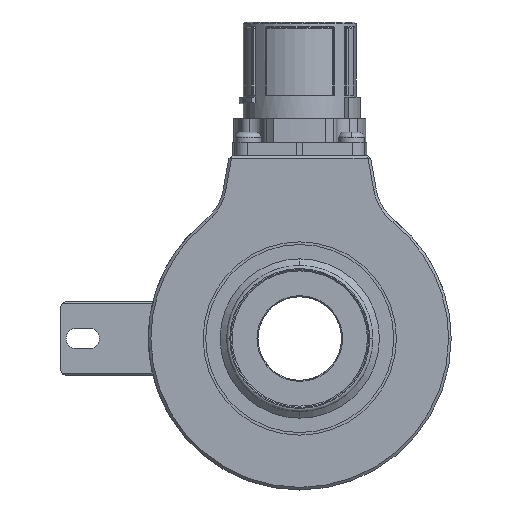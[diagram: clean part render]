
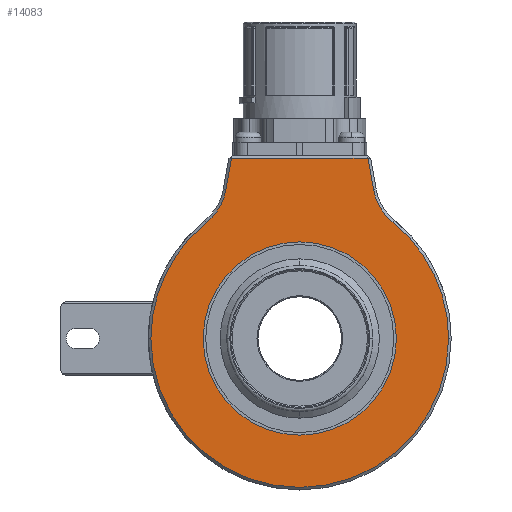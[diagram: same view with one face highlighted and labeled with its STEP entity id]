
A CAD part, left-side view. The second image highlights one B-rep face of the part: STEP entity #14083.
In plain terms, the highlighted planar face has unit normal (-1, 0, 0).
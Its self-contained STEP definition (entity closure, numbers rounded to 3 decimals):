
#153 = VERTEX_POINT ( 'NONE', #1742 ) ;
#588 = DIRECTION ( 'NONE',  ( 0., 1., 0. ) ) ;
#748 = LINE ( 'NONE', #25840, #31480 ) ;
#1354 = VERTEX_POINT ( 'NONE', #5620 ) ;
#1373 = VERTEX_POINT ( 'NONE', #10769 ) ;
#1550 = AXIS2_PLACEMENT_3D ( 'NONE', #31123, #26333, #23601 ) ;
#1577 = VERTEX_POINT ( 'NONE', #26677 ) ;
#1742 = CARTESIAN_POINT ( 'NONE',  ( -27., 28.5, 0. ) ) ;
#2339 = ORIENTED_EDGE ( 'NONE', *, *, #14885, .T. ) ;
#2572 = VERTEX_POINT ( 'NONE', #18667 ) ;
#2622 = AXIS2_PLACEMENT_3D ( 'NONE', #3199, #22711, #25450 ) ;
#2679 = VECTOR ( 'NONE', #3075, 1000. ) ;
#3075 = DIRECTION ( 'NONE',  ( 0., 0.174, 0.985 ) ) ;
#3199 = CARTESIAN_POINT ( 'NONE',  ( -27., 0., 0. ) ) ;
#3200 = ORIENTED_EDGE ( 'NONE', *, *, #15861, .T. ) ;
#3633 = CIRCLE ( 'NONE', #21664, 18.5 ) ;
#4284 = AXIS2_PLACEMENT_3D ( 'NONE', #31229, #4868, #16954 ) ;
#4868 = DIRECTION ( 'NONE',  ( -1., 0., 0. ) ) ;
#4930 = CARTESIAN_POINT ( 'NONE',  ( -27., 13.08, 34.5 ) ) ;
#5620 = CARTESIAN_POINT ( 'NONE',  ( -27., -18.5, 0. ) ) ;
#5975 = DIRECTION ( 'NONE',  ( 0., -1., 0. ) ) ;
#8067 = LINE ( 'NONE', #17904, #14490 ) ;
#8237 = ORIENTED_EDGE ( 'NONE', *, *, #11364, .T. ) ;
#9329 = ORIENTED_EDGE ( 'NONE', *, *, #31032, .T. ) ;
#9877 = AXIS2_PLACEMENT_3D ( 'NONE', #31249, #29319, #17146 ) ;
#10154 = DIRECTION ( 'NONE',  ( 0., 0.174, -0.985 ) ) ;
#10769 = CARTESIAN_POINT ( 'NONE',  ( -27., 18.5, 0. ) ) ;
#10950 = FACE_OUTER_BOUND ( 'NONE', #21711, .T. ) ;
#11295 = VERTEX_POINT ( 'NONE', #18276 ) ;
#11364 = EDGE_CURVE ( 'NONE', #19329, #153, #11487, .T. ) ;
#11487 = CIRCLE ( 'NONE', #4284, 28.5 ) ;
#11760 = DIRECTION ( 'NONE',  ( 0., -1., 0. ) ) ;
#11990 = CARTESIAN_POINT ( 'NONE',  ( -27., 17.883, 22.191 ) ) ;
#12443 = AXIS2_PLACEMENT_3D ( 'NONE', #16569, #17054, #24289 ) ;
#13037 = CARTESIAN_POINT ( 'NONE',  ( -27., -14.131, 28.544 ) ) ;
#13240 = LINE ( 'NONE', #25631, #2679 ) ;
#13700 = CARTESIAN_POINT ( 'NONE',  ( -27., 24.471, 30.367 ) ) ;
#14083 = ADVANCED_FACE ( 'NONE', ( #10950, #23197 ), #23359, .T. ) ;
#14320 = EDGE_CURVE ( 'NONE', #2572, #17087, #748, .T. ) ;
#14490 = VECTOR ( 'NONE', #10154, 1000. ) ;
#14539 = CIRCLE ( 'NONE', #12443, 28.5 ) ;
#14885 = EDGE_CURVE ( 'NONE', #17087, #1577, #8067, .T. ) ;
#15861 = EDGE_CURVE ( 'NONE', #153, #11295, #14539, .T. ) ;
#16034 = EDGE_CURVE ( 'NONE', #1373, #1354, #19690, .T. ) ;
#16222 = EDGE_CURVE ( 'NONE', #28521, #2572, #13240, .T. ) ;
#16569 = CARTESIAN_POINT ( 'NONE',  ( -27., 0., 0. ) ) ;
#16893 = CARTESIAN_POINT ( 'NONE',  ( -27., -17.883, 22.191 ) ) ;
#16954 = DIRECTION ( 'NONE',  ( 0., -1., 0. ) ) ;
#17054 = DIRECTION ( 'NONE',  ( -1., 0., 0. ) ) ;
#17087 = VERTEX_POINT ( 'NONE', #4930 ) ;
#17146 = DIRECTION ( 'NONE',  ( 0., 1., 0. ) ) ;
#17904 = CARTESIAN_POINT ( 'NONE',  ( -27., 19.46, -1.682 ) ) ;
#17913 = ORIENTED_EDGE ( 'NONE', *, *, #16222, .T. ) ;
#18276 = CARTESIAN_POINT ( 'NONE',  ( -27., -28.5, 0. ) ) ;
#18529 = CARTESIAN_POINT ( 'NONE',  ( -27., 29., 0. ) ) ;
#18662 = EDGE_CURVE ( 'NONE', #1354, #1373, #3633, .T. ) ;
#18667 = CARTESIAN_POINT ( 'NONE',  ( -27., -13.08, 34.5 ) ) ;
#19329 = VERTEX_POINT ( 'NONE', #11990 ) ;
#19690 = CIRCLE ( 'NONE', #9877, 18.5 ) ;
#21664 = AXIS2_PLACEMENT_3D ( 'NONE', #27418, #25346, #25175 ) ;
#21711 = EDGE_LOOP ( 'NONE', ( #17913, #25949, #2339, #22358, #8237, #3200, #9329, #28652 ) ) ;
#22358 = ORIENTED_EDGE ( 'NONE', *, *, #27272, .T. ) ;
#22711 = DIRECTION ( 'NONE',  ( -1., 0., 0. ) ) ;
#23197 = FACE_BOUND ( 'NONE', #23762, .T. ) ;
#23359 = PLANE ( 'NONE',  #24837 ) ;
#23516 = DIRECTION ( 'NONE',  ( 1., 0., 0. ) ) ;
#23601 = DIRECTION ( 'NONE',  ( 0., -1., 0. ) ) ;
#23662 = CIRCLE ( 'NONE', #26736, 10.5 ) ;
#23762 = EDGE_LOOP ( 'NONE', ( #24953, #28826 ) ) ;
#24289 = DIRECTION ( 'NONE',  ( 0., -1., 0. ) ) ;
#24738 = CIRCLE ( 'NONE', #2622, 28.5 ) ;
#24837 = AXIS2_PLACEMENT_3D ( 'NONE', #18529, #30549, #5975 ) ;
#24953 = ORIENTED_EDGE ( 'NONE', *, *, #16034, .T. ) ;
#25175 = DIRECTION ( 'NONE',  ( 0., 1., 0. ) ) ;
#25234 = CIRCLE ( 'NONE', #1550, 10.5 ) ;
#25346 = DIRECTION ( 'NONE',  ( 1., 0., 0. ) ) ;
#25450 = DIRECTION ( 'NONE',  ( 0., -1., 0. ) ) ;
#25631 = CARTESIAN_POINT ( 'NONE',  ( -27., -17.711, 8.236 ) ) ;
#25840 = CARTESIAN_POINT ( 'NONE',  ( -27., 29., 34.5 ) ) ;
#25949 = ORIENTED_EDGE ( 'NONE', *, *, #14320, .T. ) ;
#26333 = DIRECTION ( 'NONE',  ( 1., 0., 0. ) ) ;
#26677 = CARTESIAN_POINT ( 'NONE',  ( -27., 14.131, 28.544 ) ) ;
#26736 = AXIS2_PLACEMENT_3D ( 'NONE', #13700, #23516, #11760 ) ;
#27272 = EDGE_CURVE ( 'NONE', #1577, #19329, #23662, .T. ) ;
#27418 = CARTESIAN_POINT ( 'NONE',  ( -27., 0., 0. ) ) ;
#28521 = VERTEX_POINT ( 'NONE', #13037 ) ;
#28652 = ORIENTED_EDGE ( 'NONE', *, *, #29075, .T. ) ;
#28826 = ORIENTED_EDGE ( 'NONE', *, *, #18662, .T. ) ;
#29075 = EDGE_CURVE ( 'NONE', #29717, #28521, #25234, .T. ) ;
#29319 = DIRECTION ( 'NONE',  ( 1., 0., 0. ) ) ;
#29717 = VERTEX_POINT ( 'NONE', #16893 ) ;
#30549 = DIRECTION ( 'NONE',  ( -1., 0., 0. ) ) ;
#31032 = EDGE_CURVE ( 'NONE', #11295, #29717, #24738, .T. ) ;
#31123 = CARTESIAN_POINT ( 'NONE',  ( -27., -24.471, 30.367 ) ) ;
#31229 = CARTESIAN_POINT ( 'NONE',  ( -27., 0., 0. ) ) ;
#31249 = CARTESIAN_POINT ( 'NONE',  ( -27., 0., 0. ) ) ;
#31480 = VECTOR ( 'NONE', #588, 1000. ) ;
